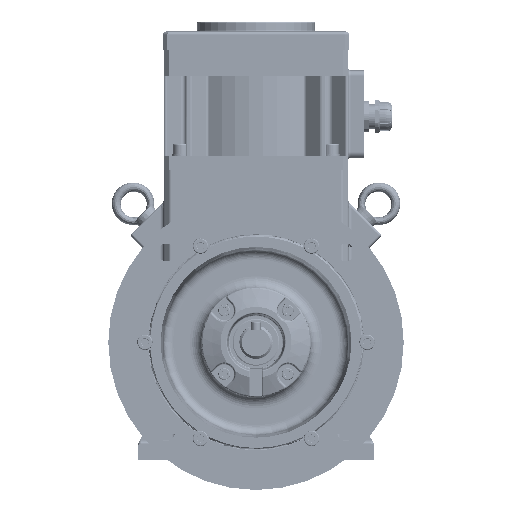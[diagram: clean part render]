
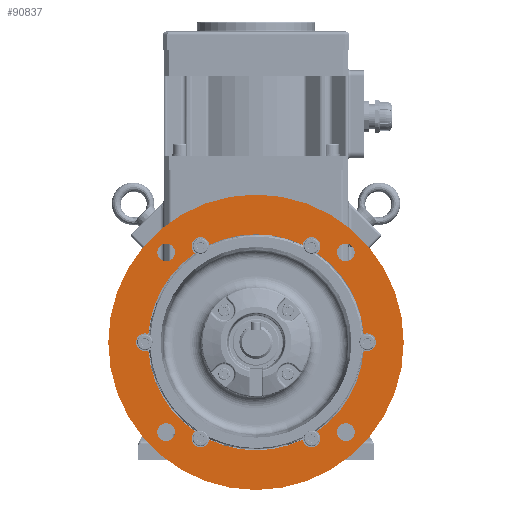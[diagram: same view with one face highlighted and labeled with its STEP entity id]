
A CAD part, front view. The second image highlights one B-rep face of the part: STEP entity #90837.
In plain terms, the highlighted planar face has unit normal (0, -1, 0).
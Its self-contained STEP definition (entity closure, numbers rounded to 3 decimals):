
#12681=PLANE('',#95578);
#16759=ORIENTED_EDGE('',*,*,#36657,.F.);
#16760=ORIENTED_EDGE('',*,*,#36534,.T.);
#16761=ORIENTED_EDGE('',*,*,#36658,.F.);
#16762=ORIENTED_EDGE('',*,*,#36505,.F.);
#16763=ORIENTED_EDGE('',*,*,#36659,.F.);
#16764=ORIENTED_EDGE('',*,*,#36612,.T.);
#16765=ORIENTED_EDGE('',*,*,#36660,.F.);
#16766=ORIENTED_EDGE('',*,*,#36553,.T.);
#16767=ORIENTED_EDGE('',*,*,#36661,.F.);
#16768=ORIENTED_EDGE('',*,*,#36591,.F.);
#16769=ORIENTED_EDGE('',*,*,#36662,.F.);
#16770=ORIENTED_EDGE('',*,*,#36639,.F.);
#16771=ORIENTED_EDGE('',*,*,#36663,.F.);
#16772=ORIENTED_EDGE('',*,*,#36664,.F.);
#16773=ORIENTED_EDGE('',*,*,#36665,.F.);
#16774=ORIENTED_EDGE('',*,*,#36666,.F.);
#16775=ORIENTED_EDGE('',*,*,#36667,.F.);
#36505=EDGE_CURVE('',#46618,#46619,#53141,.F.);
#36534=EDGE_CURVE('',#46641,#46640,#53153,.T.);
#36553=EDGE_CURVE('',#46656,#46655,#53163,.T.);
#36591=EDGE_CURVE('',#46683,#46684,#53174,.F.);
#36612=EDGE_CURVE('',#46702,#46701,#53185,.T.);
#36639=EDGE_CURVE('',#46722,#46723,#53194,.F.);
#36657=EDGE_CURVE('',#46641,#46722,#53201,.T.);
#36658=EDGE_CURVE('',#46619,#46640,#53202,.T.);
#36659=EDGE_CURVE('',#46702,#46618,#53203,.T.);
#36660=EDGE_CURVE('',#46656,#46701,#53204,.T.);
#36661=EDGE_CURVE('',#46684,#46655,#53205,.T.);
#36662=EDGE_CURVE('',#46723,#46683,#53206,.T.);
#36663=EDGE_CURVE('',#46733,#46733,#53207,.T.);
#36664=EDGE_CURVE('',#46734,#46734,#53208,.T.);
#36665=EDGE_CURVE('',#46735,#46735,#53209,.T.);
#36666=EDGE_CURVE('',#46736,#46736,#53210,.T.);
#36667=EDGE_CURVE('',#46737,#46737,#53211,.T.);
#46618=VERTEX_POINT('',#127796);
#46619=VERTEX_POINT('',#127798);
#46640=VERTEX_POINT('',#127878);
#46641=VERTEX_POINT('',#127880);
#46655=VERTEX_POINT('',#127934);
#46656=VERTEX_POINT('',#127936);
#46683=VERTEX_POINT('',#128045);
#46684=VERTEX_POINT('',#128047);
#46701=VERTEX_POINT('',#128108);
#46702=VERTEX_POINT('',#128110);
#46722=VERTEX_POINT('',#128188);
#46723=VERTEX_POINT('',#128190);
#46733=VERTEX_POINT('',#128247);
#46734=VERTEX_POINT('',#128249);
#46735=VERTEX_POINT('',#128251);
#46736=VERTEX_POINT('',#128253);
#46737=VERTEX_POINT('',#128255);
#53141=CIRCLE('',#95447,7.5);
#53153=CIRCLE('',#95473,7.5);
#53163=CIRCLE('',#95490,7.5);
#53174=CIRCLE('',#95521,7.5);
#53185=CIRCLE('',#95538,7.5);
#53194=CIRCLE('',#95559,7.5);
#53201=CIRCLE('',#95577,91.4);
#53202=CIRCLE('',#95579,91.4);
#53203=CIRCLE('',#95580,91.4);
#53204=CIRCLE('',#95581,91.4);
#53205=CIRCLE('',#95582,91.4);
#53206=CIRCLE('',#95583,91.4);
#53207=CIRCLE('',#95584,7.5);
#53208=CIRCLE('',#95585,7.5);
#53209=CIRCLE('',#95586,7.5);
#53210=CIRCLE('',#95587,7.5);
#53211=CIRCLE('',#95588,125.);
#57511=EDGE_LOOP('',(#16759,#16760,#16761,#16762,#16763,#16764,#16765,#16766,
#16767,#16768,#16769,#16770));
#57512=EDGE_LOOP('',(#16771));
#57513=EDGE_LOOP('',(#16772));
#57514=EDGE_LOOP('',(#16773));
#57515=EDGE_LOOP('',(#16774));
#57516=EDGE_LOOP('',(#16775));
#62831=FACE_BOUND('',#57511,.T.);
#62832=FACE_BOUND('',#57512,.T.);
#62833=FACE_BOUND('',#57513,.T.);
#62834=FACE_BOUND('',#57514,.T.);
#62835=FACE_BOUND('',#57515,.T.);
#62836=FACE_BOUND('',#57516,.T.);
#90837=ADVANCED_FACE('',(#62831,#62832,#62833,#62834,#62835,#62836),#12681,
 .F.);
#95447=AXIS2_PLACEMENT_3D('',#127797,#104700,#104701);
#95473=AXIS2_PLACEMENT_3D('',#127879,#104760,#104761);
#95490=AXIS2_PLACEMENT_3D('',#127935,#104800,#104801);
#95521=AXIS2_PLACEMENT_3D('',#128046,#104872,#104873);
#95538=AXIS2_PLACEMENT_3D('',#128109,#104912,#104913);
#95559=AXIS2_PLACEMENT_3D('',#128189,#104962,#104963);
#95577=AXIS2_PLACEMENT_3D('',#128239,#105001,#105002);
#95578=AXIS2_PLACEMENT_3D('',#128240,#105003,#105004);
#95579=AXIS2_PLACEMENT_3D('',#128241,#105005,#105006);
#95580=AXIS2_PLACEMENT_3D('',#128242,#105007,#105008);
#95581=AXIS2_PLACEMENT_3D('',#128243,#105009,#105010);
#95582=AXIS2_PLACEMENT_3D('',#128244,#105011,#105012);
#95583=AXIS2_PLACEMENT_3D('',#128245,#105013,#105014);
#95584=AXIS2_PLACEMENT_3D('',#128246,#105015,#105016);
#95585=AXIS2_PLACEMENT_3D('',#128248,#105017,#105018);
#95586=AXIS2_PLACEMENT_3D('',#128250,#105019,#105020);
#95587=AXIS2_PLACEMENT_3D('',#128252,#105021,#105022);
#95588=AXIS2_PLACEMENT_3D('',#128254,#105023,#105024);
#104700=DIRECTION('',(0.,1.,0.));
#104701=DIRECTION('',(0.,0.,-1.));
#104760=DIRECTION('',(0.,1.,0.));
#104761=DIRECTION('',(0.,0.,-1.));
#104800=DIRECTION('',(0.,1.,0.));
#104801=DIRECTION('',(0.,0.,-1.));
#104872=DIRECTION('',(0.,1.,0.));
#104873=DIRECTION('',(0.,0.,-1.));
#104912=DIRECTION('',(0.,1.,0.));
#104913=DIRECTION('',(0.,0.,-1.));
#104962=DIRECTION('',(0.,1.,0.));
#104963=DIRECTION('',(0.,0.,-1.));
#105001=DIRECTION('',(0.,-1.,0.));
#105002=DIRECTION('',(0.,0.,1.));
#105003=DIRECTION('',(0.,1.,0.));
#105004=DIRECTION('',(0.,0.,-1.));
#105005=DIRECTION('',(0.,-1.,0.));
#105006=DIRECTION('',(0.,0.,1.));
#105007=DIRECTION('',(0.,-1.,0.));
#105008=DIRECTION('',(0.,0.,1.));
#105009=DIRECTION('',(0.,-1.,0.));
#105010=DIRECTION('',(0.,0.,1.));
#105011=DIRECTION('',(0.,-1.,0.));
#105012=DIRECTION('',(0.,0.,1.));
#105013=DIRECTION('',(0.,-1.,0.));
#105014=DIRECTION('',(0.,0.,1.));
#105015=DIRECTION('',(0.,-1.,0.));
#105016=DIRECTION('',(1.,0.,0.));
#105017=DIRECTION('',(0.,-1.,0.));
#105018=DIRECTION('',(1.,0.,0.));
#105019=DIRECTION('',(0.,-1.,0.));
#105020=DIRECTION('',(1.,0.,0.));
#105021=DIRECTION('',(0.,-1.,0.));
#105022=DIRECTION('',(1.,0.,0.));
#105023=DIRECTION('',(0.,1.,0.));
#105024=DIRECTION('',(0.,0.,-1.));
#127796=CARTESIAN_POINT('',(-51.572,-37.497,-75.461));
#127797=CARTESIAN_POINT('',(-47.,-37.497,-81.406));
#127798=CARTESIAN_POINT('',(-39.565,-37.497,-82.393));
#127878=CARTESIAN_POINT('',(39.565,-37.497,-82.393));
#127879=CARTESIAN_POINT('',(47.,-37.497,-81.406));
#127880=CARTESIAN_POINT('',(51.572,-37.497,-75.461));
#127934=CARTESIAN_POINT('',(-39.565,-37.497,82.393));
#127935=CARTESIAN_POINT('',(-47.,-37.497,81.406));
#127936=CARTESIAN_POINT('',(-51.572,-37.497,75.461));
#128045=CARTESIAN_POINT('',(51.572,-37.497,75.461));
#128046=CARTESIAN_POINT('',(47.,-37.497,81.406));
#128047=CARTESIAN_POINT('',(39.565,-37.497,82.393));
#128108=CARTESIAN_POINT('',(-91.137,-37.497,6.932));
#128109=CARTESIAN_POINT('',(-94.,-37.497,0.));
#128110=CARTESIAN_POINT('',(-91.137,-37.497,-6.932));
#128188=CARTESIAN_POINT('',(91.137,-37.497,-6.932));
#128189=CARTESIAN_POINT('',(94.,-37.497,0.));
#128190=CARTESIAN_POINT('',(91.137,-37.497,6.932));
#128239=CARTESIAN_POINT('',(0.,-37.497,0.));
#128240=CARTESIAN_POINT('',(0.,-37.497,91.4));
#128241=CARTESIAN_POINT('',(0.,-37.497,0.));
#128242=CARTESIAN_POINT('',(0.,-37.497,0.));
#128243=CARTESIAN_POINT('',(0.,-37.497,0.));
#128244=CARTESIAN_POINT('',(0.,-37.497,0.));
#128245=CARTESIAN_POINT('',(0.,-37.497,0.));
#128246=CARTESIAN_POINT('',(76.014,-37.497,-76.014));
#128247=CARTESIAN_POINT('',(83.514,-37.497,-76.014));
#128248=CARTESIAN_POINT('',(-76.014,-37.497,-76.014));
#128249=CARTESIAN_POINT('',(-68.514,-37.497,-76.014));
#128250=CARTESIAN_POINT('',(-76.014,-37.497,76.014));
#128251=CARTESIAN_POINT('',(-68.514,-37.497,76.014));
#128252=CARTESIAN_POINT('',(76.014,-37.497,76.014));
#128253=CARTESIAN_POINT('',(83.514,-37.497,76.014));
#128254=CARTESIAN_POINT('',(0.,-37.497,0.));
#128255=CARTESIAN_POINT('',(0.,-37.497,-125.));
